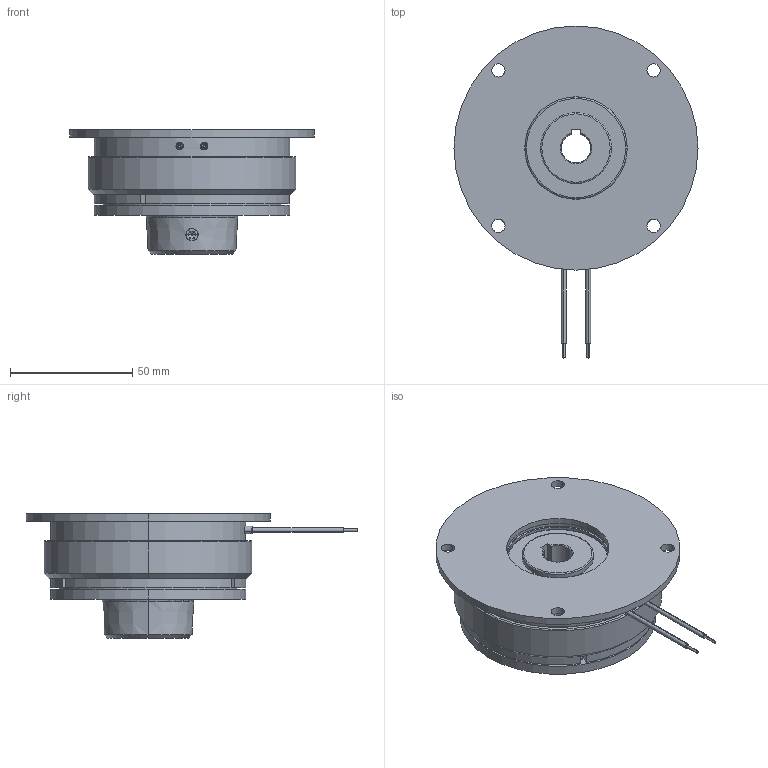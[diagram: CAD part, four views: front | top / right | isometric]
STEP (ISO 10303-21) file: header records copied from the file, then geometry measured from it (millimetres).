
FILE_DESCRIPTION (( 'STEP AP214' ), '1' );
FILE_NAME ('dr_bk_0703-130_mu.STEP', '2021-11-17T08:46:07', ( '' ), ( '' ), 'SwSTEP 2.0', 'SolidWorks 2019', '' );
FILE_SCHEMA (( 'AUTOMOTIVE_DESIGN' ));
Length unit declared in the file: millimetre
Products named in the file (12): 10068810_000; 10068804_000; 10068806_000_Einbaul„nge 2,75; 10068812_000; 10068805_000; 10068811_000_M 6 x 10; 10068807_000; 10068802_000; dr_bk_0703-130_mu; 10069114_000; 10068806_000_Einbaul„nge 3,05mm; 10069130_000
Assembly tree (20 placements, depth 4):
  dr_bk_0703-130_mu
    10069114_000
    10069130_000
    10068810_000
      10068812_000
      10068802_000
        10068804_000
        10068807_000
        10068805_000  x3
        10068806_000_Einbaul„nge 2,75  x3
      10068806_000_Einbaul„nge 3,05mm  x3
      10068805_000  x3
      10068811_000_M 6 x 10
Bounding box: 100 x 136 x 51 mm (x, y, z)
Volume: 184323.8 mm3; surface area: 71580.3 mm2
Topology: 20 solids, 20 shells, 623 faces, 1552 edges, 981 vertices
Faces by surface type: plane 182, cylinder 181, bspline 111, cone 96, torus 41, sphere 12
Entity records: 24762 total; most frequent: CARTESIAN_POINT 10901, ORIENTED_EDGE 2644, DIRECTION 2258, EDGE_CURVE 1322, VERTEX_POINT 853, AXIS2_PLACEMENT_3D 846, EDGE_LOOP 605, LINE 566
